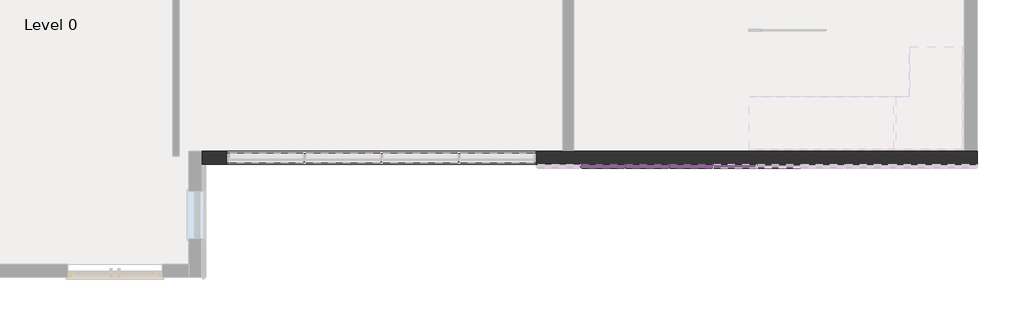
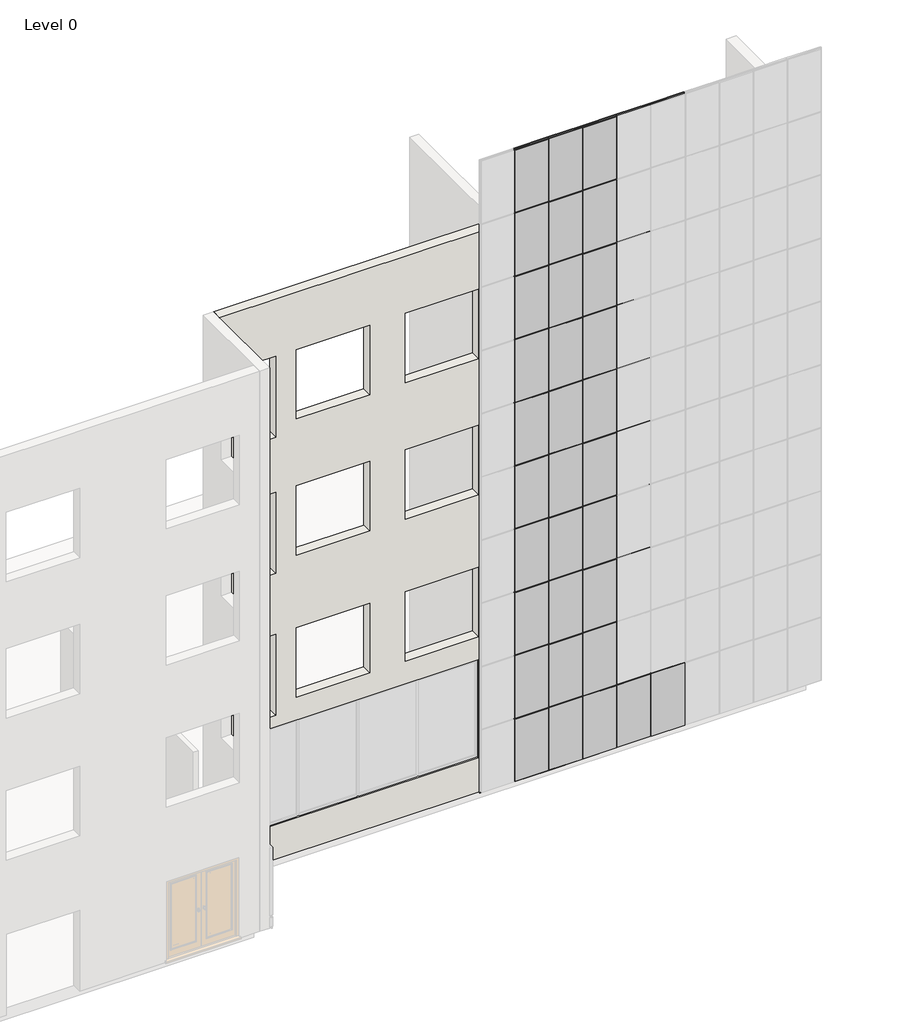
# One storey, part 3 of 10: 86 members, 32 plates, 1 wall.
"""IFC4 building model written with IfcOpenShell, lengths in millimetres."""

from ifc_helpers import new_model, si_unit, origin, place, context, project, spatial, faceted_brep, transform, mapped, element, save
from components import rectangular_mullion_25x25mm_9b161682, rectangular_mullion_25x25mm_ababed0b, rectangular_mullion_25x25mm_8d901635, rectangular_mullion_25x25mm_4133c801, rectangular_mullion_25x25mm_ea16d22e, curtain_panels_solid_solid_panel_green_e5ea026e

model = new_model("IFC4")

# Units and contexts
model_context = context("Model", 3, world=origin())
ifc_project = project(units=[si_unit("LENGTHUNIT", "METRE", prefix="MILLI")], contexts=[model_context])

# Site, building, storey
site = spatial("IfcSite", under=ifc_project)
building = spatial("IfcBuilding", under=site)
storey = spatial("IfcBuildingStorey", under=building, Name="Level 0", Elevation=0.0)

# Members
placement = place(None, origin())
rectangular_mullion_25x25mm_shape = rectangular_mullion_25x25mm_9b161682(model_context)
element("IfcMember", 1, ObjectType="Rectangular Mullion : 25x25mm", at=placement, inside=storey, context=model_context, shape_type="MappedRepresentation", body=[
    mapped(rectangular_mullion_25x25mm_shape, transform((35446.1442369, -3560.0053409, 16500.0), x_axis=(0.0, 0.0, 1.0), y_axis=(0.0, 1.0, 0.0), z_axis=(-1.0, 0.0, 0.0))),
])
element("IfcMember", 2, ObjectType="Rectangular Mullion : 25x25mm", at=placement, inside=storey, context=model_context, shape_type="MappedRepresentation", body=[
    mapped(rectangular_mullion_25x25mm_shape, transform((34606.714237, -3560.0053409, 16500.0), x_axis=(0.0, 0.0, 1.0), y_axis=(0.0, 1.0, 0.0), z_axis=(-1.0, 0.0, 0.0))),
])
element("IfcMember", 3, ObjectType="Rectangular Mullion : 25x25mm", at=placement, inside=storey, context=model_context, shape_type="MappedRepresentation", body=[
    mapped(rectangular_mullion_25x25mm_shape, transform((33767.2842371, -3560.0053409, 16500.0), x_axis=(0.0, 0.0, 1.0), y_axis=(0.0, 1.0, 0.0), z_axis=(-1.0, 0.0, 0.0))),
])
element("IfcMember", 4, ObjectType="Rectangular Mullion : 25x25mm", at=placement, inside=storey, context=model_context, shape_type="MappedRepresentation", body=[
    mapped(rectangular_mullion_25x25mm_shape, transform((32927.8542372, -3560.0053409, 16500.0), x_axis=(0.0, 0.0, 1.0), y_axis=(0.0, 1.0, 0.0), z_axis=(-1.0, 0.0, 0.0))),
])
element("IfcMember", 5, ObjectType="Rectangular Mullion : 25x25mm", at=placement, inside=storey, context=model_context, shape_type="MappedRepresentation", body=[
    mapped(rectangular_mullion_25x25mm_shape, transform((32088.4242373, -3560.0053409, 16500.0), x_axis=(0.0, 0.0, 1.0), y_axis=(0.0, 1.0, 0.0), z_axis=(-1.0, 0.0, 0.0))),
])
element("IfcMember", 6, ObjectType="Rectangular Mullion : 25x25mm", at=placement, inside=storey, context=model_context, shape_type="MappedRepresentation", body=[
    mapped(rectangular_mullion_25x25mm_shape, transform((34606.714237, -3560.0053409, 0.0), x_axis=(0.0, 0.0, -1.0), y_axis=(0.0, 1.0, 0.0), z_axis=(1.0, 0.0, 0.0))),
])
element("IfcMember", 7, ObjectType="Rectangular Mullion : 25x25mm", at=placement, inside=storey, context=model_context, shape_type="MappedRepresentation", body=[
    mapped(rectangular_mullion_25x25mm_shape, transform((33767.2842371, -3560.0053409, 0.0), x_axis=(0.0, 0.0, -1.0), y_axis=(0.0, 1.0, 0.0), z_axis=(1.0, 0.0, 0.0))),
])
element("IfcMember", 8, ObjectType="Rectangular Mullion : 25x25mm", at=placement, inside=storey, context=model_context, shape_type="MappedRepresentation", body=[
    mapped(rectangular_mullion_25x25mm_shape, transform((32927.8542372, -3560.0053409, 0.0), x_axis=(0.0, 0.0, -1.0), y_axis=(0.0, 1.0, 0.0), z_axis=(1.0, 0.0, 0.0))),
])
rectangular_mullion_25x25mm_2_shape = rectangular_mullion_25x25mm_ababed0b(model_context)
element("IfcMember", 9, ObjectType="Rectangular Mullion : 25x25mm", at=placement, inside=storey, context=model_context, shape_type="MappedRepresentation", body=[
    mapped(rectangular_mullion_25x25mm_2_shape, transform((34619.214237, -3560.0053409, 1660.0), x_axis=(0.0, 0.0, 1.0), y_axis=(0.0, 1.0, 0.0), z_axis=(-1.0, 0.0, 0.0))),
])
element("IfcMember", 10, ObjectType="Rectangular Mullion : 25x25mm", at=placement, inside=storey, context=model_context, shape_type="MappedRepresentation", body=[
    mapped(rectangular_mullion_25x25mm_2_shape, transform((33779.7842371, -3560.0053409, 1660.0), x_axis=(0.0, 0.0, 1.0), y_axis=(0.0, 1.0, 0.0), z_axis=(-1.0, 0.0, 0.0))),
])
element("IfcMember", 11, ObjectType="Rectangular Mullion : 25x25mm", at=placement, inside=storey, context=model_context, shape_type="MappedRepresentation", body=[
    mapped(rectangular_mullion_25x25mm_2_shape, transform((32940.3542372, -3560.0053409, 1660.0), x_axis=(0.0, 0.0, 1.0), y_axis=(0.0, 1.0, 0.0), z_axis=(-1.0, 0.0, 0.0))),
])
element("IfcMember", 12, ObjectType="Rectangular Mullion : 25x25mm", at=placement, inside=storey, context=model_context, shape_type="MappedRepresentation", body=[
    mapped(rectangular_mullion_25x25mm_2_shape, transform((32100.9242373, -3560.0053409, 1660.0), x_axis=(0.0, 0.0, 1.0), y_axis=(0.0, 1.0, 0.0), z_axis=(-1.0, 0.0, 0.0))),
])
element("IfcMember", 13, ObjectType="Rectangular Mullion : 25x25mm", at=placement, inside=storey, context=model_context, shape_type="MappedRepresentation", body=[
    mapped(rectangular_mullion_25x25mm_2_shape, transform((34619.214237, -3560.0053409, 3307.5), x_axis=(0.0, 0.0, 1.0), y_axis=(0.0, 1.0, 0.0), z_axis=(-1.0, 0.0, 0.0))),
])
element("IfcMember", 14, ObjectType="Rectangular Mullion : 25x25mm", at=placement, inside=storey, context=model_context, shape_type="MappedRepresentation", body=[
    mapped(rectangular_mullion_25x25mm_2_shape, transform((33779.7842371, -3560.0053409, 3307.5), x_axis=(0.0, 0.0, 1.0), y_axis=(0.0, 1.0, 0.0), z_axis=(-1.0, 0.0, 0.0))),
])
element("IfcMember", 15, ObjectType="Rectangular Mullion : 25x25mm", at=placement, inside=storey, context=model_context, shape_type="MappedRepresentation", body=[
    mapped(rectangular_mullion_25x25mm_2_shape, transform((32940.3542372, -3560.0053409, 3307.5), x_axis=(0.0, 0.0, 1.0), y_axis=(0.0, 1.0, 0.0), z_axis=(-1.0, 0.0, 0.0))),
])
element("IfcMember", 16, ObjectType="Rectangular Mullion : 25x25mm", at=placement, inside=storey, context=model_context, shape_type="MappedRepresentation", body=[
    mapped(rectangular_mullion_25x25mm_2_shape, transform((32100.9242373, -3560.0053409, 3307.5), x_axis=(0.0, 0.0, 1.0), y_axis=(0.0, 1.0, 0.0), z_axis=(-1.0, 0.0, 0.0))),
])
element("IfcMember", 17, ObjectType="Rectangular Mullion : 25x25mm", at=placement, inside=storey, context=model_context, shape_type="MappedRepresentation", body=[
    mapped(rectangular_mullion_25x25mm_2_shape, transform((34619.214237, -3560.0053409, 4955.0), x_axis=(0.0, 0.0, 1.0), y_axis=(0.0, 1.0, 0.0), z_axis=(-1.0, 0.0, 0.0))),
])
element("IfcMember", 18, ObjectType="Rectangular Mullion : 25x25mm", at=placement, inside=storey, context=model_context, shape_type="MappedRepresentation", body=[
    mapped(rectangular_mullion_25x25mm_2_shape, transform((33779.7842371, -3560.0053409, 4955.0), x_axis=(0.0, 0.0, 1.0), y_axis=(0.0, 1.0, 0.0), z_axis=(-1.0, 0.0, 0.0))),
])
element("IfcMember", 19, ObjectType="Rectangular Mullion : 25x25mm", at=placement, inside=storey, context=model_context, shape_type="MappedRepresentation", body=[
    mapped(rectangular_mullion_25x25mm_2_shape, transform((32940.3542372, -3560.0053409, 4955.0), x_axis=(0.0, 0.0, 1.0), y_axis=(0.0, 1.0, 0.0), z_axis=(-1.0, 0.0, 0.0))),
])
element("IfcMember", 20, ObjectType="Rectangular Mullion : 25x25mm", at=placement, inside=storey, context=model_context, shape_type="MappedRepresentation", body=[
    mapped(rectangular_mullion_25x25mm_2_shape, transform((32100.9242373, -3560.0053409, 4955.0), x_axis=(0.0, 0.0, 1.0), y_axis=(0.0, 1.0, 0.0), z_axis=(-1.0, 0.0, 0.0))),
])
element("IfcMember", 21, ObjectType="Rectangular Mullion : 25x25mm", at=placement, inside=storey, context=model_context, shape_type="MappedRepresentation", body=[
    mapped(rectangular_mullion_25x25mm_2_shape, transform((34619.214237, -3560.0053409, 6602.5), x_axis=(0.0, 0.0, 1.0), y_axis=(0.0, 1.0, 0.0), z_axis=(-1.0, 0.0, 0.0))),
])
element("IfcMember", 22, ObjectType="Rectangular Mullion : 25x25mm", at=placement, inside=storey, context=model_context, shape_type="MappedRepresentation", body=[
    mapped(rectangular_mullion_25x25mm_2_shape, transform((33779.7842371, -3560.0053409, 6602.5), x_axis=(0.0, 0.0, 1.0), y_axis=(0.0, 1.0, 0.0), z_axis=(-1.0, 0.0, 0.0))),
])
element("IfcMember", 23, ObjectType="Rectangular Mullion : 25x25mm", at=placement, inside=storey, context=model_context, shape_type="MappedRepresentation", body=[
    mapped(rectangular_mullion_25x25mm_2_shape, transform((32940.3542372, -3560.0053409, 6602.5), x_axis=(0.0, 0.0, 1.0), y_axis=(0.0, 1.0, 0.0), z_axis=(-1.0, 0.0, 0.0))),
])
element("IfcMember", 24, ObjectType="Rectangular Mullion : 25x25mm", at=placement, inside=storey, context=model_context, shape_type="MappedRepresentation", body=[
    mapped(rectangular_mullion_25x25mm_2_shape, transform((32100.9242373, -3560.0053409, 6602.5), x_axis=(0.0, 0.0, 1.0), y_axis=(0.0, 1.0, 0.0), z_axis=(-1.0, 0.0, 0.0))),
])
element("IfcMember", 25, ObjectType="Rectangular Mullion : 25x25mm", at=placement, inside=storey, context=model_context, shape_type="MappedRepresentation", body=[
    mapped(rectangular_mullion_25x25mm_2_shape, transform((34619.214237, -3560.0053409, 8250.0), x_axis=(0.0, 0.0, 1.0), y_axis=(0.0, 1.0, 0.0), z_axis=(-1.0, 0.0, 0.0))),
])
element("IfcMember", 26, ObjectType="Rectangular Mullion : 25x25mm", at=placement, inside=storey, context=model_context, shape_type="MappedRepresentation", body=[
    mapped(rectangular_mullion_25x25mm_2_shape, transform((33779.7842371, -3560.0053409, 8250.0), x_axis=(0.0, 0.0, 1.0), y_axis=(0.0, 1.0, 0.0), z_axis=(-1.0, 0.0, 0.0))),
])
element("IfcMember", 27, ObjectType="Rectangular Mullion : 25x25mm", at=placement, inside=storey, context=model_context, shape_type="MappedRepresentation", body=[
    mapped(rectangular_mullion_25x25mm_2_shape, transform((32940.3542372, -3560.0053409, 8250.0), x_axis=(0.0, 0.0, 1.0), y_axis=(0.0, 1.0, 0.0), z_axis=(-1.0, 0.0, 0.0))),
])
element("IfcMember", 28, ObjectType="Rectangular Mullion : 25x25mm", at=placement, inside=storey, context=model_context, shape_type="MappedRepresentation", body=[
    mapped(rectangular_mullion_25x25mm_2_shape, transform((32100.9242373, -3560.0053409, 8250.0), x_axis=(0.0, 0.0, 1.0), y_axis=(0.0, 1.0, 0.0), z_axis=(-1.0, 0.0, 0.0))),
])
element("IfcMember", 29, ObjectType="Rectangular Mullion : 25x25mm", at=placement, inside=storey, context=model_context, shape_type="MappedRepresentation", body=[
    mapped(rectangular_mullion_25x25mm_2_shape, transform((34619.214237, -3560.0053409, 9897.5), x_axis=(0.0, 0.0, 1.0), y_axis=(0.0, 1.0, 0.0), z_axis=(-1.0, 0.0, 0.0))),
])
element("IfcMember", 30, ObjectType="Rectangular Mullion : 25x25mm", at=placement, inside=storey, context=model_context, shape_type="MappedRepresentation", body=[
    mapped(rectangular_mullion_25x25mm_2_shape, transform((33779.7842371, -3560.0053409, 9897.5), x_axis=(0.0, 0.0, 1.0), y_axis=(0.0, 1.0, 0.0), z_axis=(-1.0, 0.0, 0.0))),
])
element("IfcMember", 31, ObjectType="Rectangular Mullion : 25x25mm", at=placement, inside=storey, context=model_context, shape_type="MappedRepresentation", body=[
    mapped(rectangular_mullion_25x25mm_2_shape, transform((32940.3542372, -3560.0053409, 9897.5), x_axis=(0.0, 0.0, 1.0), y_axis=(0.0, 1.0, 0.0), z_axis=(-1.0, 0.0, 0.0))),
])
element("IfcMember", 32, ObjectType="Rectangular Mullion : 25x25mm", at=placement, inside=storey, context=model_context, shape_type="MappedRepresentation", body=[
    mapped(rectangular_mullion_25x25mm_2_shape, transform((32100.9242373, -3560.0053409, 9897.5), x_axis=(0.0, 0.0, 1.0), y_axis=(0.0, 1.0, 0.0), z_axis=(-1.0, 0.0, 0.0))),
])
element("IfcMember", 33, ObjectType="Rectangular Mullion : 25x25mm", at=placement, inside=storey, context=model_context, shape_type="MappedRepresentation", body=[
    mapped(rectangular_mullion_25x25mm_2_shape, transform((34619.214237, -3560.0053409, 11545.0), x_axis=(0.0, 0.0, 1.0), y_axis=(0.0, 1.0, 0.0), z_axis=(-1.0, 0.0, 0.0))),
])
element("IfcMember", 34, ObjectType="Rectangular Mullion : 25x25mm", at=placement, inside=storey, context=model_context, shape_type="MappedRepresentation", body=[
    mapped(rectangular_mullion_25x25mm_2_shape, transform((33779.7842371, -3560.0053409, 11545.0), x_axis=(0.0, 0.0, 1.0), y_axis=(0.0, 1.0, 0.0), z_axis=(-1.0, 0.0, 0.0))),
])
element("IfcMember", 35, ObjectType="Rectangular Mullion : 25x25mm", at=placement, inside=storey, context=model_context, shape_type="MappedRepresentation", body=[
    mapped(rectangular_mullion_25x25mm_2_shape, transform((32940.3542372, -3560.0053409, 11545.0), x_axis=(0.0, 0.0, 1.0), y_axis=(0.0, 1.0, 0.0), z_axis=(-1.0, 0.0, 0.0))),
])
element("IfcMember", 36, ObjectType="Rectangular Mullion : 25x25mm", at=placement, inside=storey, context=model_context, shape_type="MappedRepresentation", body=[
    mapped(rectangular_mullion_25x25mm_2_shape, transform((32100.9242373, -3560.0053409, 11545.0), x_axis=(0.0, 0.0, 1.0), y_axis=(0.0, 1.0, 0.0), z_axis=(-1.0, 0.0, 0.0))),
])
element("IfcMember", 37, ObjectType="Rectangular Mullion : 25x25mm", at=placement, inside=storey, context=model_context, shape_type="MappedRepresentation", body=[
    mapped(rectangular_mullion_25x25mm_2_shape, transform((34619.214237, -3560.0053409, 13192.5), x_axis=(0.0, 0.0, 1.0), y_axis=(0.0, 1.0, 0.0), z_axis=(-1.0, 0.0, 0.0))),
])
element("IfcMember", 38, ObjectType="Rectangular Mullion : 25x25mm", at=placement, inside=storey, context=model_context, shape_type="MappedRepresentation", body=[
    mapped(rectangular_mullion_25x25mm_2_shape, transform((33779.7842371, -3560.0053409, 13192.5), x_axis=(0.0, 0.0, 1.0), y_axis=(0.0, 1.0, 0.0), z_axis=(-1.0, 0.0, 0.0))),
])
element("IfcMember", 39, ObjectType="Rectangular Mullion : 25x25mm", at=placement, inside=storey, context=model_context, shape_type="MappedRepresentation", body=[
    mapped(rectangular_mullion_25x25mm_2_shape, transform((32940.3542372, -3560.0053409, 13192.5), x_axis=(0.0, 0.0, 1.0), y_axis=(0.0, 1.0, 0.0), z_axis=(-1.0, 0.0, 0.0))),
])
element("IfcMember", 40, ObjectType="Rectangular Mullion : 25x25mm", at=placement, inside=storey, context=model_context, shape_type="MappedRepresentation", body=[
    mapped(rectangular_mullion_25x25mm_2_shape, transform((32100.9242373, -3560.0053409, 13192.5), x_axis=(0.0, 0.0, 1.0), y_axis=(0.0, 1.0, 0.0), z_axis=(-1.0, 0.0, 0.0))),
])
element("IfcMember", 41, ObjectType="Rectangular Mullion : 25x25mm", at=placement, inside=storey, context=model_context, shape_type="MappedRepresentation", body=[
    mapped(rectangular_mullion_25x25mm_2_shape, transform((34619.214237, -3560.0053409, 14840.0), x_axis=(0.0, 0.0, 1.0), y_axis=(0.0, 1.0, 0.0), z_axis=(-1.0, 0.0, 0.0))),
])
element("IfcMember", 42, ObjectType="Rectangular Mullion : 25x25mm", at=placement, inside=storey, context=model_context, shape_type="MappedRepresentation", body=[
    mapped(rectangular_mullion_25x25mm_2_shape, transform((33779.7842371, -3560.0053409, 14840.0), x_axis=(0.0, 0.0, 1.0), y_axis=(0.0, 1.0, 0.0), z_axis=(-1.0, 0.0, 0.0))),
])
element("IfcMember", 43, ObjectType="Rectangular Mullion : 25x25mm", at=placement, inside=storey, context=model_context, shape_type="MappedRepresentation", body=[
    mapped(rectangular_mullion_25x25mm_2_shape, transform((32940.3542372, -3560.0053409, 14840.0), x_axis=(0.0, 0.0, 1.0), y_axis=(0.0, 1.0, 0.0), z_axis=(-1.0, 0.0, 0.0))),
])
element("IfcMember", 44, ObjectType="Rectangular Mullion : 25x25mm", at=placement, inside=storey, context=model_context, shape_type="MappedRepresentation", body=[
    mapped(rectangular_mullion_25x25mm_2_shape, transform((32100.9242373, -3560.0053409, 14840.0), x_axis=(0.0, 0.0, 1.0), y_axis=(0.0, 1.0, 0.0), z_axis=(-1.0, 0.0, 0.0))),
])
rectangular_mullion_25x25mm_3_shape = rectangular_mullion_25x25mm_8d901635(model_context)
element("IfcMember", 45, ObjectType="Rectangular Mullion : 25x25mm", at=placement, inside=storey, context=model_context, shape_type="MappedRepresentation", body=[
    mapped(rectangular_mullion_25x25mm_3_shape, transform((35446.1442369, -3560.0053409, 25.0), x_axis=(-1.0, 0.0, 0.0), y_axis=(0.0, 1.0, 0.0), z_axis=(0.0, 0.0, -1.0))),
])
element("IfcMember", 46, ObjectType="Rectangular Mullion : 25x25mm", at=placement, inside=storey, context=model_context, shape_type="MappedRepresentation", body=[
    mapped(rectangular_mullion_25x25mm_3_shape, transform((34606.714237, -3560.0053409, 25.0), x_axis=(-1.0, 0.0, 0.0), y_axis=(0.0, 1.0, 0.0), z_axis=(0.0, 0.0, -1.0))),
])
element("IfcMember", 47, ObjectType="Rectangular Mullion : 25x25mm", at=placement, inside=storey, context=model_context, shape_type="MappedRepresentation", body=[
    mapped(rectangular_mullion_25x25mm_3_shape, transform((33767.2842371, -3560.0053409, 25.0), x_axis=(-1.0, 0.0, 0.0), y_axis=(0.0, 1.0, 0.0), z_axis=(0.0, 0.0, -1.0))),
])
element("IfcMember", 48, ObjectType="Rectangular Mullion : 25x25mm", at=placement, inside=storey, context=model_context, shape_type="MappedRepresentation", body=[
    mapped(rectangular_mullion_25x25mm_3_shape, transform((32927.8542372, -3560.0053409, 25.0), x_axis=(-1.0, 0.0, 0.0), y_axis=(0.0, 1.0, 0.0), z_axis=(0.0, 0.0, -1.0))),
])
element("IfcMember", 49, ObjectType="Rectangular Mullion : 25x25mm", at=placement, inside=storey, context=model_context, shape_type="MappedRepresentation", body=[
    mapped(rectangular_mullion_25x25mm_3_shape, transform((32088.4242373, -3560.0053409, 25.0), x_axis=(-1.0, 0.0, 0.0), y_axis=(0.0, 1.0, 0.0), z_axis=(0.0, 0.0, -1.0))),
])
rectangular_mullion_25x25mm_4_shape = rectangular_mullion_25x25mm_4133c801(model_context)
element("IfcMember", 50, ObjectType="Rectangular Mullion : 25x25mm", at=placement, inside=storey, context=model_context, shape_type="MappedRepresentation", body=[
    mapped(rectangular_mullion_25x25mm_4_shape, transform((34606.714237, -3560.0053409, 1660.0), x_axis=(-1.0, 0.0, 0.0), y_axis=(0.0, 1.0, 0.0), z_axis=(0.0, 0.0, -1.0))),
])
element("IfcMember", 51, ObjectType="Rectangular Mullion : 25x25mm", at=placement, inside=storey, context=model_context, shape_type="MappedRepresentation", body=[
    mapped(rectangular_mullion_25x25mm_4_shape, transform((34606.714237, -3560.0053409, 3307.5), x_axis=(-1.0, 0.0, 0.0), y_axis=(0.0, 1.0, 0.0), z_axis=(0.0, 0.0, -1.0))),
])
element("IfcMember", 52, ObjectType="Rectangular Mullion : 25x25mm", at=placement, inside=storey, context=model_context, shape_type="MappedRepresentation", body=[
    mapped(rectangular_mullion_25x25mm_4_shape, transform((34606.714237, -3560.0053409, 4955.0), x_axis=(-1.0, 0.0, 0.0), y_axis=(0.0, 1.0, 0.0), z_axis=(0.0, 0.0, -1.0))),
])
element("IfcMember", 53, ObjectType="Rectangular Mullion : 25x25mm", at=placement, inside=storey, context=model_context, shape_type="MappedRepresentation", body=[
    mapped(rectangular_mullion_25x25mm_4_shape, transform((34606.714237, -3560.0053409, 6602.5), x_axis=(-1.0, 0.0, 0.0), y_axis=(0.0, 1.0, 0.0), z_axis=(0.0, 0.0, -1.0))),
])
element("IfcMember", 54, ObjectType="Rectangular Mullion : 25x25mm", at=placement, inside=storey, context=model_context, shape_type="MappedRepresentation", body=[
    mapped(rectangular_mullion_25x25mm_4_shape, transform((34606.714237, -3560.0053409, 8250.0), x_axis=(-1.0, 0.0, 0.0), y_axis=(0.0, 1.0, 0.0), z_axis=(0.0, 0.0, -1.0))),
])
element("IfcMember", 55, ObjectType="Rectangular Mullion : 25x25mm", at=placement, inside=storey, context=model_context, shape_type="MappedRepresentation", body=[
    mapped(rectangular_mullion_25x25mm_4_shape, transform((34606.714237, -3560.0053409, 9897.5), x_axis=(-1.0, 0.0, 0.0), y_axis=(0.0, 1.0, 0.0), z_axis=(0.0, 0.0, -1.0))),
])
element("IfcMember", 56, ObjectType="Rectangular Mullion : 25x25mm", at=placement, inside=storey, context=model_context, shape_type="MappedRepresentation", body=[
    mapped(rectangular_mullion_25x25mm_4_shape, transform((34606.714237, -3560.0053409, 11545.0), x_axis=(-1.0, 0.0, 0.0), y_axis=(0.0, 1.0, 0.0), z_axis=(0.0, 0.0, -1.0))),
])
element("IfcMember", 57, ObjectType="Rectangular Mullion : 25x25mm", at=placement, inside=storey, context=model_context, shape_type="MappedRepresentation", body=[
    mapped(rectangular_mullion_25x25mm_4_shape, transform((34606.714237, -3560.0053409, 13192.5), x_axis=(-1.0, 0.0, 0.0), y_axis=(0.0, 1.0, 0.0), z_axis=(0.0, 0.0, -1.0))),
])
element("IfcMember", 58, ObjectType="Rectangular Mullion : 25x25mm", at=placement, inside=storey, context=model_context, shape_type="MappedRepresentation", body=[
    mapped(rectangular_mullion_25x25mm_4_shape, transform((33767.2842371, -3560.0053409, 1660.0), x_axis=(-1.0, 0.0, 0.0), y_axis=(0.0, 1.0, 0.0), z_axis=(0.0, 0.0, -1.0))),
])
element("IfcMember", 59, ObjectType="Rectangular Mullion : 25x25mm", at=placement, inside=storey, context=model_context, shape_type="MappedRepresentation", body=[
    mapped(rectangular_mullion_25x25mm_4_shape, transform((33767.2842371, -3560.0053409, 3307.5), x_axis=(-1.0, 0.0, 0.0), y_axis=(0.0, 1.0, 0.0), z_axis=(0.0, 0.0, -1.0))),
])
element("IfcMember", 60, ObjectType="Rectangular Mullion : 25x25mm", at=placement, inside=storey, context=model_context, shape_type="MappedRepresentation", body=[
    mapped(rectangular_mullion_25x25mm_4_shape, transform((33767.2842371, -3560.0053409, 4955.0), x_axis=(-1.0, 0.0, 0.0), y_axis=(0.0, 1.0, 0.0), z_axis=(0.0, 0.0, -1.0))),
])
element("IfcMember", 61, ObjectType="Rectangular Mullion : 25x25mm", at=placement, inside=storey, context=model_context, shape_type="MappedRepresentation", body=[
    mapped(rectangular_mullion_25x25mm_4_shape, transform((33767.2842371, -3560.0053409, 6602.5), x_axis=(-1.0, 0.0, 0.0), y_axis=(0.0, 1.0, 0.0), z_axis=(0.0, 0.0, -1.0))),
])
element("IfcMember", 62, ObjectType="Rectangular Mullion : 25x25mm", at=placement, inside=storey, context=model_context, shape_type="MappedRepresentation", body=[
    mapped(rectangular_mullion_25x25mm_4_shape, transform((33767.2842371, -3560.0053409, 8250.0), x_axis=(-1.0, 0.0, 0.0), y_axis=(0.0, 1.0, 0.0), z_axis=(0.0, 0.0, -1.0))),
])
element("IfcMember", 63, ObjectType="Rectangular Mullion : 25x25mm", at=placement, inside=storey, context=model_context, shape_type="MappedRepresentation", body=[
    mapped(rectangular_mullion_25x25mm_4_shape, transform((33767.2842371, -3560.0053409, 9897.5), x_axis=(-1.0, 0.0, 0.0), y_axis=(0.0, 1.0, 0.0), z_axis=(0.0, 0.0, -1.0))),
])
element("IfcMember", 64, ObjectType="Rectangular Mullion : 25x25mm", at=placement, inside=storey, context=model_context, shape_type="MappedRepresentation", body=[
    mapped(rectangular_mullion_25x25mm_4_shape, transform((33767.2842371, -3560.0053409, 11545.0), x_axis=(-1.0, 0.0, 0.0), y_axis=(0.0, 1.0, 0.0), z_axis=(0.0, 0.0, -1.0))),
])
element("IfcMember", 65, ObjectType="Rectangular Mullion : 25x25mm", at=placement, inside=storey, context=model_context, shape_type="MappedRepresentation", body=[
    mapped(rectangular_mullion_25x25mm_4_shape, transform((33767.2842371, -3560.0053409, 13192.5), x_axis=(-1.0, 0.0, 0.0), y_axis=(0.0, 1.0, 0.0), z_axis=(0.0, 0.0, -1.0))),
])
element("IfcMember", 66, ObjectType="Rectangular Mullion : 25x25mm", at=placement, inside=storey, context=model_context, shape_type="MappedRepresentation", body=[
    mapped(rectangular_mullion_25x25mm_4_shape, transform((32927.8542372, -3560.0053409, 1660.0), x_axis=(-1.0, 0.0, 0.0), y_axis=(0.0, 1.0, 0.0), z_axis=(0.0, 0.0, -1.0))),
])
element("IfcMember", 67, ObjectType="Rectangular Mullion : 25x25mm", at=placement, inside=storey, context=model_context, shape_type="MappedRepresentation", body=[
    mapped(rectangular_mullion_25x25mm_4_shape, transform((32927.8542372, -3560.0053409, 3307.5), x_axis=(-1.0, 0.0, 0.0), y_axis=(0.0, 1.0, 0.0), z_axis=(0.0, 0.0, -1.0))),
])
element("IfcMember", 68, ObjectType="Rectangular Mullion : 25x25mm", at=placement, inside=storey, context=model_context, shape_type="MappedRepresentation", body=[
    mapped(rectangular_mullion_25x25mm_4_shape, transform((32927.8542372, -3560.0053409, 4955.0), x_axis=(-1.0, 0.0, 0.0), y_axis=(0.0, 1.0, 0.0), z_axis=(0.0, 0.0, -1.0))),
])
element("IfcMember", 69, ObjectType="Rectangular Mullion : 25x25mm", at=placement, inside=storey, context=model_context, shape_type="MappedRepresentation", body=[
    mapped(rectangular_mullion_25x25mm_4_shape, transform((32927.8542372, -3560.0053409, 6602.5), x_axis=(-1.0, 0.0, 0.0), y_axis=(0.0, 1.0, 0.0), z_axis=(0.0, 0.0, -1.0))),
])
element("IfcMember", 70, ObjectType="Rectangular Mullion : 25x25mm", at=placement, inside=storey, context=model_context, shape_type="MappedRepresentation", body=[
    mapped(rectangular_mullion_25x25mm_4_shape, transform((32927.8542372, -3560.0053409, 8250.0), x_axis=(-1.0, 0.0, 0.0), y_axis=(0.0, 1.0, 0.0), z_axis=(0.0, 0.0, -1.0))),
])
element("IfcMember", 71, ObjectType="Rectangular Mullion : 25x25mm", at=placement, inside=storey, context=model_context, shape_type="MappedRepresentation", body=[
    mapped(rectangular_mullion_25x25mm_4_shape, transform((32927.8542372, -3560.0053409, 9897.5), x_axis=(-1.0, 0.0, 0.0), y_axis=(0.0, 1.0, 0.0), z_axis=(0.0, 0.0, -1.0))),
])
element("IfcMember", 72, ObjectType="Rectangular Mullion : 25x25mm", at=placement, inside=storey, context=model_context, shape_type="MappedRepresentation", body=[
    mapped(rectangular_mullion_25x25mm_4_shape, transform((32927.8542372, -3560.0053409, 11545.0), x_axis=(-1.0, 0.0, 0.0), y_axis=(0.0, 1.0, 0.0), z_axis=(0.0, 0.0, -1.0))),
])
element("IfcMember", 73, ObjectType="Rectangular Mullion : 25x25mm", at=placement, inside=storey, context=model_context, shape_type="MappedRepresentation", body=[
    mapped(rectangular_mullion_25x25mm_4_shape, transform((32927.8542372, -3560.0053409, 13192.5), x_axis=(-1.0, 0.0, 0.0), y_axis=(0.0, 1.0, 0.0), z_axis=(0.0, 0.0, -1.0))),
])
element("IfcMember", 74, ObjectType="Rectangular Mullion : 25x25mm", at=placement, inside=storey, context=model_context, shape_type="MappedRepresentation", body=[
    mapped(rectangular_mullion_25x25mm_4_shape, transform((32088.4242373, -3560.0053409, 1660.0), x_axis=(-1.0, 0.0, 0.0), y_axis=(0.0, 1.0, 0.0), z_axis=(0.0, 0.0, -1.0))),
])
element("IfcMember", 75, ObjectType="Rectangular Mullion : 25x25mm", at=placement, inside=storey, context=model_context, shape_type="MappedRepresentation", body=[
    mapped(rectangular_mullion_25x25mm_4_shape, transform((32088.4242373, -3560.0053409, 3307.5), x_axis=(-1.0, 0.0, 0.0), y_axis=(0.0, 1.0, 0.0), z_axis=(0.0, 0.0, -1.0))),
])
element("IfcMember", 76, ObjectType="Rectangular Mullion : 25x25mm", at=placement, inside=storey, context=model_context, shape_type="MappedRepresentation", body=[
    mapped(rectangular_mullion_25x25mm_4_shape, transform((32088.4242373, -3560.0053409, 4955.0), x_axis=(-1.0, 0.0, 0.0), y_axis=(0.0, 1.0, 0.0), z_axis=(0.0, 0.0, -1.0))),
])
element("IfcMember", 77, ObjectType="Rectangular Mullion : 25x25mm", at=placement, inside=storey, context=model_context, shape_type="MappedRepresentation", body=[
    mapped(rectangular_mullion_25x25mm_4_shape, transform((32088.4242373, -3560.0053409, 6602.5), x_axis=(-1.0, 0.0, 0.0), y_axis=(0.0, 1.0, 0.0), z_axis=(0.0, 0.0, -1.0))),
])
element("IfcMember", 78, ObjectType="Rectangular Mullion : 25x25mm", at=placement, inside=storey, context=model_context, shape_type="MappedRepresentation", body=[
    mapped(rectangular_mullion_25x25mm_4_shape, transform((32088.4242373, -3560.0053409, 8250.0), x_axis=(-1.0, 0.0, 0.0), y_axis=(0.0, 1.0, 0.0), z_axis=(0.0, 0.0, -1.0))),
])
element("IfcMember", 79, ObjectType="Rectangular Mullion : 25x25mm", at=placement, inside=storey, context=model_context, shape_type="MappedRepresentation", body=[
    mapped(rectangular_mullion_25x25mm_4_shape, transform((32088.4242373, -3560.0053409, 9897.5), x_axis=(-1.0, 0.0, 0.0), y_axis=(0.0, 1.0, 0.0), z_axis=(0.0, 0.0, -1.0))),
])
element("IfcMember", 80, ObjectType="Rectangular Mullion : 25x25mm", at=placement, inside=storey, context=model_context, shape_type="MappedRepresentation", body=[
    mapped(rectangular_mullion_25x25mm_4_shape, transform((32088.4242373, -3560.0053409, 11545.0), x_axis=(-1.0, 0.0, 0.0), y_axis=(0.0, 1.0, 0.0), z_axis=(0.0, 0.0, -1.0))),
])
element("IfcMember", 81, ObjectType="Rectangular Mullion : 25x25mm", at=placement, inside=storey, context=model_context, shape_type="MappedRepresentation", body=[
    mapped(rectangular_mullion_25x25mm_4_shape, transform((32088.4242373, -3560.0053409, 13192.5), x_axis=(-1.0, 0.0, 0.0), y_axis=(0.0, 1.0, 0.0), z_axis=(0.0, 0.0, -1.0))),
])
element("IfcMember", 82, ObjectType="Rectangular Mullion : 25x25mm", at=placement, inside=storey, context=model_context, shape_type="MappedRepresentation", body=[
    mapped(rectangular_mullion_25x25mm_3_shape, transform((34606.714237, -3560.0053409, 14840.0), x_axis=(-1.0, 0.0, 0.0), y_axis=(0.0, 1.0, 0.0), z_axis=(0.0, 0.0, -1.0))),
])
element("IfcMember", 83, ObjectType="Rectangular Mullion : 25x25mm", at=placement, inside=storey, context=model_context, shape_type="MappedRepresentation", body=[
    mapped(rectangular_mullion_25x25mm_3_shape, transform((33767.2842371, -3560.0053409, 14840.0), x_axis=(-1.0, 0.0, 0.0), y_axis=(0.0, 1.0, 0.0), z_axis=(0.0, 0.0, -1.0))),
])
element("IfcMember", 84, ObjectType="Rectangular Mullion : 25x25mm", at=placement, inside=storey, context=model_context, shape_type="MappedRepresentation", body=[
    mapped(rectangular_mullion_25x25mm_3_shape, transform((32927.8542372, -3560.0053409, 14840.0), x_axis=(-1.0, 0.0, 0.0), y_axis=(0.0, 1.0, 0.0), z_axis=(0.0, 0.0, -1.0))),
])
element("IfcMember", 85, ObjectType="Rectangular Mullion : 25x25mm", at=placement, inside=storey, context=model_context, shape_type="MappedRepresentation", body=[
    mapped(rectangular_mullion_25x25mm_3_shape, transform((32088.4242373, -3560.0053409, 14840.0), x_axis=(-1.0, 0.0, 0.0), y_axis=(0.0, 1.0, 0.0), z_axis=(0.0, 0.0, -1.0))),
])
rectangular_mullion_25x25mm_5_shape = rectangular_mullion_25x25mm_ea16d22e(model_context)
element("IfcMember", 86, ObjectType="Rectangular Mullion : 25x25mm", at=placement, inside=storey, context=model_context, shape_type="MappedRepresentation", body=[
    mapped(rectangular_mullion_25x25mm_5_shape, transform((32088.4242373, -3560.0053409, 0.0), x_axis=(0.0, 0.0, -1.0), y_axis=(0.0, 1.0, 0.0), z_axis=(1.0, 0.0, 0.0))),
])

# Plates
curtain_panels_solid_solid_panel_green_shape = curtain_panels_solid_solid_panel_green_e5ea026e(model_context)
element("IfcPlate", 87, ObjectType="Curtain_Panels_Solid : Solid_Panel_Green", at=placement, inside=storey, context=model_context, shape_type="MappedRepresentation", body=[
    mapped(curtain_panels_solid_solid_panel_green_shape, transform((35865.8592368, -3560.0053409, 25.0), x_axis=(-1.0, 0.0, 0.0), y_axis=(0.0, -1.0, 0.0), z_axis=(0.0, 0.0, 1.0))),
])
element("IfcPlate", 88, ObjectType="Curtain_Panels_Solid : Solid_Panel_Green", at=placement, inside=storey, context=model_context, shape_type="MappedRepresentation", body=[
    mapped(curtain_panels_solid_solid_panel_green_shape, transform((35026.4292369, -3560.0053409, 25.0), x_axis=(-1.0, 0.0, 0.0), y_axis=(0.0, -1.0, 0.0), z_axis=(0.0, 0.0, 1.0))),
])
element("IfcPlate", 89, ObjectType="Curtain_Panels_Solid : Solid_Panel_Green", at=placement, inside=storey, context=model_context, shape_type="MappedRepresentation", body=[
    mapped(curtain_panels_solid_solid_panel_green_shape, transform((34186.999237, -3560.0053409, 25.0), x_axis=(-1.0, 0.0, 0.0), y_axis=(0.0, -1.0, 0.0), z_axis=(0.0, 0.0, 1.0))),
])
element("IfcPlate", 90, ObjectType="Curtain_Panels_Solid : Solid_Panel_Green", at=placement, inside=storey, context=model_context, shape_type="MappedRepresentation", body=[
    mapped(curtain_panels_solid_solid_panel_green_shape, transform((33347.5692371, -3560.0053409, 25.0), x_axis=(-1.0, 0.0, 0.0), y_axis=(0.0, -1.0, 0.0), z_axis=(0.0, 0.0, 1.0))),
])
element("IfcPlate", 91, ObjectType="Curtain_Panels_Solid : Solid_Panel_Green", at=placement, inside=storey, context=model_context, shape_type="MappedRepresentation", body=[
    mapped(curtain_panels_solid_solid_panel_green_shape, transform((32508.1392372, -3560.0053409, 25.0), x_axis=(-1.0, 0.0, 0.0), y_axis=(0.0, -1.0, 0.0), z_axis=(0.0, 0.0, 1.0))),
])
element("IfcPlate", 92, ObjectType="Curtain_Panels_Solid : Solid_Panel_Green", at=placement, inside=storey, context=model_context, shape_type="MappedRepresentation", body=[
    mapped(curtain_panels_solid_solid_panel_green_shape, transform((34186.999237, -3560.0053409, 1672.5), x_axis=(-1.0, 0.0, 0.0), y_axis=(0.0, -1.0, 0.0), z_axis=(0.0, 0.0, 1.0))),
])
element("IfcPlate", 93, ObjectType="Curtain_Panels_Solid : Solid_Panel_Green", at=placement, inside=storey, context=model_context, shape_type="MappedRepresentation", body=[
    mapped(curtain_panels_solid_solid_panel_green_shape, transform((33347.5692371, -3560.0053409, 1672.5), x_axis=(-1.0, 0.0, 0.0), y_axis=(0.0, -1.0, 0.0), z_axis=(0.0, 0.0, 1.0))),
])
element("IfcPlate", 94, ObjectType="Curtain_Panels_Solid : Solid_Panel_Green", at=placement, inside=storey, context=model_context, shape_type="MappedRepresentation", body=[
    mapped(curtain_panels_solid_solid_panel_green_shape, transform((32508.1392372, -3560.0053409, 1672.5), x_axis=(-1.0, 0.0, 0.0), y_axis=(0.0, -1.0, 0.0), z_axis=(0.0, 0.0, 1.0))),
])
element("IfcPlate", 95, ObjectType="Curtain_Panels_Solid : Solid_Panel_Green", at=placement, inside=storey, context=model_context, shape_type="MappedRepresentation", body=[
    mapped(curtain_panels_solid_solid_panel_green_shape, transform((34186.999237, -3560.0053409, 3320.0), x_axis=(-1.0, 0.0, 0.0), y_axis=(0.0, -1.0, 0.0), z_axis=(0.0, 0.0, 1.0))),
])
element("IfcPlate", 96, ObjectType="Curtain_Panels_Solid : Solid_Panel_Green", at=placement, inside=storey, context=model_context, shape_type="MappedRepresentation", body=[
    mapped(curtain_panels_solid_solid_panel_green_shape, transform((33347.5692371, -3560.0053409, 3320.0), x_axis=(-1.0, 0.0, 0.0), y_axis=(0.0, -1.0, 0.0), z_axis=(0.0, 0.0, 1.0))),
])
element("IfcPlate", 97, ObjectType="Curtain_Panels_Solid : Solid_Panel_Green", at=placement, inside=storey, context=model_context, shape_type="MappedRepresentation", body=[
    mapped(curtain_panels_solid_solid_panel_green_shape, transform((32508.1392372, -3560.0053409, 3320.0), x_axis=(-1.0, 0.0, 0.0), y_axis=(0.0, -1.0, 0.0), z_axis=(0.0, 0.0, 1.0))),
])
element("IfcPlate", 98, ObjectType="Curtain_Panels_Solid : Solid_Panel_Green", at=placement, inside=storey, context=model_context, shape_type="MappedRepresentation", body=[
    mapped(curtain_panels_solid_solid_panel_green_shape, transform((34186.999237, -3560.0053409, 4967.5), x_axis=(-1.0, 0.0, 0.0), y_axis=(0.0, -1.0, 0.0), z_axis=(0.0, 0.0, 1.0))),
])
element("IfcPlate", 99, ObjectType="Curtain_Panels_Solid : Solid_Panel_Green", at=placement, inside=storey, context=model_context, shape_type="MappedRepresentation", body=[
    mapped(curtain_panels_solid_solid_panel_green_shape, transform((33347.5692371, -3560.0053409, 4967.5), x_axis=(-1.0, 0.0, 0.0), y_axis=(0.0, -1.0, 0.0), z_axis=(0.0, 0.0, 1.0))),
])
element("IfcPlate", 100, ObjectType="Curtain_Panels_Solid : Solid_Panel_Green", at=placement, inside=storey, context=model_context, shape_type="MappedRepresentation", body=[
    mapped(curtain_panels_solid_solid_panel_green_shape, transform((32508.1392372, -3560.0053409, 4967.5), x_axis=(-1.0, 0.0, 0.0), y_axis=(0.0, -1.0, 0.0), z_axis=(0.0, 0.0, 1.0))),
])
element("IfcPlate", 101, ObjectType="Curtain_Panels_Solid : Solid_Panel_Green", at=placement, inside=storey, context=model_context, shape_type="MappedRepresentation", body=[
    mapped(curtain_panels_solid_solid_panel_green_shape, transform((34186.999237, -3560.0053409, 6615.0), x_axis=(-1.0, 0.0, 0.0), y_axis=(0.0, -1.0, 0.0), z_axis=(0.0, 0.0, 1.0))),
])
element("IfcPlate", 102, ObjectType="Curtain_Panels_Solid : Solid_Panel_Green", at=placement, inside=storey, context=model_context, shape_type="MappedRepresentation", body=[
    mapped(curtain_panels_solid_solid_panel_green_shape, transform((33347.5692371, -3560.0053409, 6615.0), x_axis=(-1.0, 0.0, 0.0), y_axis=(0.0, -1.0, 0.0), z_axis=(0.0, 0.0, 1.0))),
])
element("IfcPlate", 103, ObjectType="Curtain_Panels_Solid : Solid_Panel_Green", at=placement, inside=storey, context=model_context, shape_type="MappedRepresentation", body=[
    mapped(curtain_panels_solid_solid_panel_green_shape, transform((32508.1392372, -3560.0053409, 6615.0), x_axis=(-1.0, 0.0, 0.0), y_axis=(0.0, -1.0, 0.0), z_axis=(0.0, 0.0, 1.0))),
])
element("IfcPlate", 104, ObjectType="Curtain_Panels_Solid : Solid_Panel_Green", at=placement, inside=storey, context=model_context, shape_type="MappedRepresentation", body=[
    mapped(curtain_panels_solid_solid_panel_green_shape, transform((34186.999237, -3560.0053409, 8262.5), x_axis=(-1.0, 0.0, 0.0), y_axis=(0.0, -1.0, 0.0), z_axis=(0.0, 0.0, 1.0))),
])
element("IfcPlate", 105, ObjectType="Curtain_Panels_Solid : Solid_Panel_Green", at=placement, inside=storey, context=model_context, shape_type="MappedRepresentation", body=[
    mapped(curtain_panels_solid_solid_panel_green_shape, transform((33347.5692371, -3560.0053409, 8262.5), x_axis=(-1.0, 0.0, 0.0), y_axis=(0.0, -1.0, 0.0), z_axis=(0.0, 0.0, 1.0))),
])
element("IfcPlate", 106, ObjectType="Curtain_Panels_Solid : Solid_Panel_Green", at=placement, inside=storey, context=model_context, shape_type="MappedRepresentation", body=[
    mapped(curtain_panels_solid_solid_panel_green_shape, transform((32508.1392372, -3560.0053409, 8262.5), x_axis=(-1.0, 0.0, 0.0), y_axis=(0.0, -1.0, 0.0), z_axis=(0.0, 0.0, 1.0))),
])
element("IfcPlate", 107, ObjectType="Curtain_Panels_Solid : Solid_Panel_Green", at=placement, inside=storey, context=model_context, shape_type="MappedRepresentation", body=[
    mapped(curtain_panels_solid_solid_panel_green_shape, transform((34186.999237, -3560.0053409, 9910.0), x_axis=(-1.0, 0.0, 0.0), y_axis=(0.0, -1.0, 0.0), z_axis=(0.0, 0.0, 1.0))),
])
element("IfcPlate", 108, ObjectType="Curtain_Panels_Solid : Solid_Panel_Green", at=placement, inside=storey, context=model_context, shape_type="MappedRepresentation", body=[
    mapped(curtain_panels_solid_solid_panel_green_shape, transform((33347.5692371, -3560.0053409, 9910.0), x_axis=(-1.0, 0.0, 0.0), y_axis=(0.0, -1.0, 0.0), z_axis=(0.0, 0.0, 1.0))),
])
element("IfcPlate", 109, ObjectType="Curtain_Panels_Solid : Solid_Panel_Green", at=placement, inside=storey, context=model_context, shape_type="MappedRepresentation", body=[
    mapped(curtain_panels_solid_solid_panel_green_shape, transform((32508.1392372, -3560.0053409, 9910.0), x_axis=(-1.0, 0.0, 0.0), y_axis=(0.0, -1.0, 0.0), z_axis=(0.0, 0.0, 1.0))),
])
element("IfcPlate", 110, ObjectType="Curtain_Panels_Solid : Solid_Panel_Green", at=placement, inside=storey, context=model_context, shape_type="MappedRepresentation", body=[
    mapped(curtain_panels_solid_solid_panel_green_shape, transform((34186.999237, -3560.0053409, 11557.5), x_axis=(-1.0, 0.0, 0.0), y_axis=(0.0, -1.0, 0.0), z_axis=(0.0, 0.0, 1.0))),
])
element("IfcPlate", 111, ObjectType="Curtain_Panels_Solid : Solid_Panel_Green", at=placement, inside=storey, context=model_context, shape_type="MappedRepresentation", body=[
    mapped(curtain_panels_solid_solid_panel_green_shape, transform((33347.5692371, -3560.0053409, 11557.5), x_axis=(-1.0, 0.0, 0.0), y_axis=(0.0, -1.0, 0.0), z_axis=(0.0, 0.0, 1.0))),
])
element("IfcPlate", 112, ObjectType="Curtain_Panels_Solid : Solid_Panel_Green", at=placement, inside=storey, context=model_context, shape_type="MappedRepresentation", body=[
    mapped(curtain_panels_solid_solid_panel_green_shape, transform((32508.1392372, -3560.0053409, 11557.5), x_axis=(-1.0, 0.0, 0.0), y_axis=(0.0, -1.0, 0.0), z_axis=(0.0, 0.0, 1.0))),
])
element("IfcPlate", 113, ObjectType="Curtain_Panels_Solid : Solid_Panel_Green", at=placement, inside=storey, context=model_context, shape_type="MappedRepresentation", body=[
    mapped(curtain_panels_solid_solid_panel_green_shape, transform((34186.999237, -3560.0053409, 13205.0), x_axis=(-1.0, 0.0, 0.0), y_axis=(0.0, -1.0, 0.0), z_axis=(0.0, 0.0, 1.0))),
])
element("IfcPlate", 114, ObjectType="Curtain_Panels_Solid : Solid_Panel_Green", at=placement, inside=storey, context=model_context, shape_type="MappedRepresentation", body=[
    mapped(curtain_panels_solid_solid_panel_green_shape, transform((33347.5692371, -3560.0053409, 13205.0), x_axis=(-1.0, 0.0, 0.0), y_axis=(0.0, -1.0, 0.0), z_axis=(0.0, 0.0, 1.0))),
])
element("IfcPlate", 115, ObjectType="Curtain_Panels_Solid : Solid_Panel_Green", at=placement, inside=storey, context=model_context, shape_type="MappedRepresentation", body=[
    mapped(curtain_panels_solid_solid_panel_green_shape, transform((32508.1392372, -3560.0053409, 13205.0), x_axis=(-1.0, 0.0, 0.0), y_axis=(0.0, -1.0, 0.0), z_axis=(0.0, 0.0, 1.0))),
])
element("IfcPlate", 116, ObjectType="Curtain_Panels_Solid : Solid_Panel_Green", at=placement, inside=storey, context=model_context, shape_type="MappedRepresentation", body=[
    mapped(curtain_panels_solid_solid_panel_green_shape, transform((34186.999237, -3560.0053409, 14852.5), x_axis=(-1.0, 0.0, 0.0), y_axis=(0.0, -1.0, 0.0), z_axis=(0.0, 0.0, 1.0))),
])
element("IfcPlate", 117, ObjectType="Curtain_Panels_Solid : Solid_Panel_Green", at=placement, inside=storey, context=model_context, shape_type="MappedRepresentation", body=[
    mapped(curtain_panels_solid_solid_panel_green_shape, transform((33347.5692371, -3560.0053409, 14852.5), x_axis=(-1.0, 0.0, 0.0), y_axis=(0.0, -1.0, 0.0), z_axis=(0.0, 0.0, 1.0))),
])
element("IfcPlate", 118, ObjectType="Curtain_Panels_Solid : Solid_Panel_Green", at=placement, inside=storey, context=model_context, shape_type="MappedRepresentation", body=[
    mapped(curtain_panels_solid_solid_panel_green_shape, transform((32508.1392372, -3560.0053409, 14852.5), x_axis=(-1.0, 0.0, 0.0), y_axis=(0.0, -1.0, 0.0), z_axis=(0.0, 0.0, 1.0))),
])

# Wall
element("IfcWall", 119, ObjectType="Wall-Ext_250-Concrete", at=placement, inside=storey, context=model_context, shape_type="Brep", body=[
    faceted_brep([(39655.7942367, -3285.0053409, 0.0), (39405.7942367, -3285.0053409, 0.0), (31951.4942371, -3285.0053409, 0.0), (31736.4942371, -3285.0053409, 0.0), (24848.2942367, -3285.0053409, 0.0), (24848.2942367, -3285.0053409, 14600.0), (31736.4942371, -3285.0053409, 14600.0), (31951.4942371, -3285.0053409, 14600.0), (39405.7942367, -3285.0053409, 14600.0), (39530.7942367, -3285.0053409, 14600.0), (39530.7942367, -3285.0053409, 3450.0), (39655.7942367, -3285.0053409, 3450.0), (31236.4942371, -3285.0053409, 900.0), (31236.4942371, -3285.0053409, 3450.0), (25330.7942367, -3285.0053409, 3450.0), (25330.7942367, -3285.0053409, 900.0), (26240.7942367, -3285.0053409, 3750.0), (26240.7942367, -3285.0053409, 5860.0), (25330.7942367, -3285.0053409, 5860.0), (25330.7942367, -3285.0053409, 3750.0), (28550.7942367, -3285.0053409, 4050.0), (28550.7942367, -3285.0053409, 5860.0), (26740.7942367, -3285.0053409, 5860.0), (26740.7942367, -3285.0053409, 4050.0), (31236.4942371, -3285.0053409, 4050.0), (31236.4942371, -3285.0053409, 5860.0), (29426.4942371, -3285.0053409, 5860.0), (29426.4942371, -3285.0053409, 4050.0), (28550.7942367, -3285.0053409, 7750.0), (28550.7942367, -3285.0053409, 9560.0), (26740.7942367, -3285.0053409, 9560.0), (26740.7942367, -3285.0053409, 7750.0), (31236.4942371, -3285.0053409, 7750.0), (31236.4942371, -3285.0053409, 9560.0), (29426.4942371, -3285.0053409, 9560.0), (29426.4942371, -3285.0053409, 7750.0), (26240.7942367, -3285.0053409, 7450.0), (26240.7942367, -3285.0053409, 9560.0), (25330.7942367, -3285.0053409, 9560.0), (25330.7942367, -3285.0053409, 7450.0), (28550.7942367, -3285.0053409, 11300.0), (28550.7942367, -3285.0053409, 13110.0), (26740.7942367, -3285.0053409, 13110.0), (26740.7942367, -3285.0053409, 11300.0), (31236.4942371, -3285.0053409, 11300.0), (31236.4942371, -3285.0053409, 13110.0), (29426.4942371, -3285.0053409, 13110.0), (29426.4942371, -3285.0053409, 11300.0), (26240.7942367, -3285.0053409, 11000.0), (26240.7942367, -3285.0053409, 13110.0), (25330.7942367, -3285.0053409, 13110.0), (25330.7942367, -3285.0053409, 11000.0), (24848.2942367, -3535.0053409, 0.0), (39655.7942367, -3535.0053409, 0.0), (39655.7942367, -3535.0053409, 3450.0), (39530.7942367, -3535.0053409, 3450.0), (39530.7942367, -3535.0053409, 14600.0), (24848.2942367, -3535.0053409, 14600.0), (31236.4942371, -3535.0053409, 3450.0), (31236.4942371, -3535.0053409, 900.0), (25330.7942367, -3535.0053409, 900.0), (25330.7942367, -3535.0053409, 3450.0), (26240.7942367, -3535.0053409, 5860.0), (26240.7942367, -3535.0053409, 3750.0), (25330.7942367, -3535.0053409, 3750.0), (25330.7942367, -3535.0053409, 5860.0), (28550.7942367, -3535.0053409, 5860.0), (28550.7942367, -3535.0053409, 4050.0), (26740.7942367, -3535.0053409, 4050.0), (26740.7942367, -3535.0053409, 5860.0), (31236.4942371, -3535.0053409, 5860.0), (31236.4942371, -3535.0053409, 4050.0), (29426.4942371, -3535.0053409, 4050.0), (29426.4942371, -3535.0053409, 5860.0), (28550.7942367, -3535.0053409, 9560.0), (28550.7942367, -3535.0053409, 7750.0), (26740.7942367, -3535.0053409, 7750.0), (26740.7942367, -3535.0053409, 9560.0), (31236.4942371, -3535.0053409, 9560.0), (31236.4942371, -3535.0053409, 7750.0), (29426.4942371, -3535.0053409, 7750.0), (29426.4942371, -3535.0053409, 9560.0), (26240.7942367, -3535.0053409, 9560.0), (26240.7942367, -3535.0053409, 7450.0), (25330.7942367, -3535.0053409, 7450.0), (25330.7942367, -3535.0053409, 9560.0), (28550.7942367, -3535.0053409, 13110.0), (28550.7942367, -3535.0053409, 11300.0), (26740.7942367, -3535.0053409, 11300.0), (26740.7942367, -3535.0053409, 13110.0), (31236.4942371, -3535.0053409, 13110.0), (31236.4942371, -3535.0053409, 11300.0), (29426.4942371, -3535.0053409, 11300.0), (29426.4942371, -3535.0053409, 13110.0), (26240.7942367, -3535.0053409, 13110.0), (26240.7942367, -3535.0053409, 11000.0), (25330.7942367, -3535.0053409, 11000.0), (25330.7942367, -3535.0053409, 13110.0)], [[[0, 1, 2, 3, 4, 5, 6, 7, 8, 9, 10, 11], [12, 13, 14, 15], [16, 17, 18, 19], [20, 21, 22, 23], [24, 25, 26, 27], [28, 29, 30, 31], [32, 33, 34, 35], [36, 37, 38, 39], [40, 41, 42, 43], [44, 45, 46, 47], [48, 49, 50, 51]], [[52, 53, 54, 55, 56, 57], [58, 59, 60, 61], [62, 63, 64, 65], [66, 67, 68, 69], [70, 71, 72, 73], [74, 75, 76, 77], [78, 79, 80, 81], [82, 83, 84, 85], [86, 87, 88, 89], [90, 91, 92, 93], [94, 95, 96, 97]], [[4, 3, 2, 1, 0, 53, 52]], [[9, 8, 7, 6, 5, 57, 56]], [[12, 59, 58, 13]], [[13, 58, 61, 14]], [[14, 61, 60, 15]], [[59, 12, 15, 60]], [[9, 56, 55, 10]], [[10, 55, 54, 11]], [[53, 0, 11, 54]], [[62, 17, 16, 63]], [[63, 16, 19, 64]], [[17, 62, 65, 18]], [[18, 65, 64, 19]], [[67, 66, 21, 20]], [[68, 67, 20, 23]], [[69, 68, 23, 22]], [[66, 69, 22, 21]], [[71, 70, 25, 24]], [[72, 71, 24, 27]], [[73, 72, 27, 26]], [[70, 73, 26, 25]], [[75, 74, 29, 28]], [[76, 75, 28, 31]], [[77, 76, 31, 30]], [[74, 77, 30, 29]], [[79, 78, 33, 32]], [[80, 79, 32, 35]], [[81, 80, 35, 34]], [[78, 81, 34, 33]], [[83, 82, 37, 36]], [[84, 83, 36, 39]], [[85, 84, 39, 38]], [[82, 85, 38, 37]], [[87, 86, 41, 40]], [[88, 87, 40, 43]], [[89, 88, 43, 42]], [[86, 89, 42, 41]], [[91, 90, 45, 44]], [[92, 91, 44, 47]], [[93, 92, 47, 46]], [[90, 93, 46, 45]], [[95, 94, 49, 48]], [[96, 95, 48, 51]], [[97, 96, 51, 50]], [[94, 97, 50, 49]], [[4, 52, 57, 5]]]),
])

save(model, "model.ifc")
